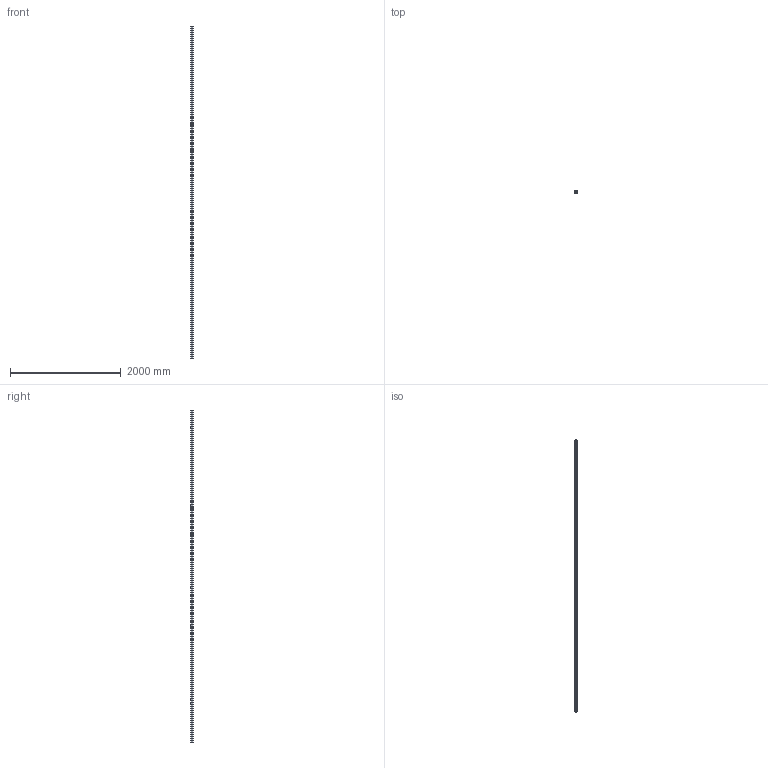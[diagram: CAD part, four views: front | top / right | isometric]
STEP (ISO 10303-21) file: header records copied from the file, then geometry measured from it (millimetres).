
FILE_DESCRIPTION(/* description */ ('Profilrohr Nr.2 - 6m'),/* implementation_level */ '2;1');
FILE_NAME(/* name */ 'Q:\sge-ma\Produktmanagement-STB\STB\Workspace\stp\011337033.stp',/* time_stamp */ '2015-06-01T10:15:10+02:00',/* author */ ('avschreier'),/* organization */ (''),/* preprocessor_version */ 'ST-DEVELOPER v15.6',/* originating_system */ 'Autodesk Inventor 2015',/* authorisation */ '');
FILE_SCHEMA (('CONFIG_CONTROL_DESIGN'));
Length unit declared in the file: millimetre
Products named in the file (1): 011337033
Bounding box: 48 x 43 x 6000 mm (x, y, z)
Volume: 2646338.8 mm3; surface area: 1693249 mm2
Topology: 1 solids, 1 shells, 70 faces, 180 edges, 120 vertices
Faces by surface type: plane 58, cylinder 12
Entity records: 2132 total; most frequent: CARTESIAN_POINT 371, ORIENTED_EDGE 360, DIRECTION 346, EDGE_CURVE 180, LINE 156, VECTOR 156, VERTEX_POINT 120, AXIS2_PLACEMENT_3D 95
